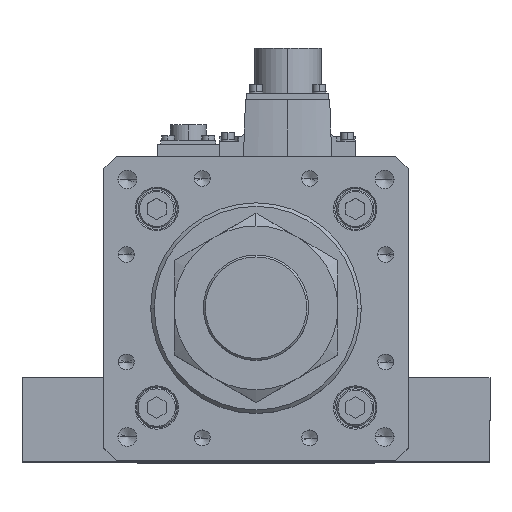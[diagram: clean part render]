
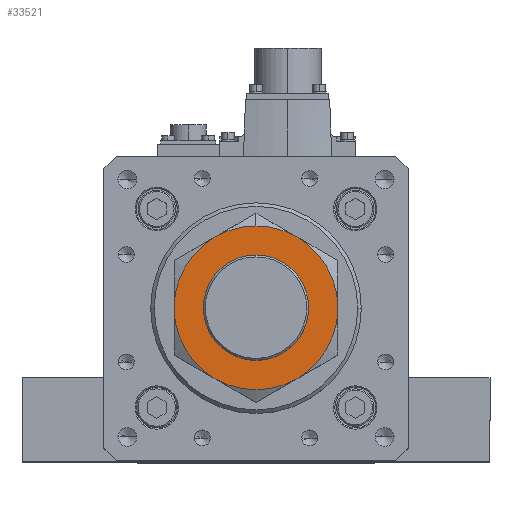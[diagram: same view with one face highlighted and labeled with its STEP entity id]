
A CAD part, top view. The second image highlights one B-rep face of the part: STEP entity #33521.
In plain terms, the highlighted planar face has unit normal (0, 0, 1).
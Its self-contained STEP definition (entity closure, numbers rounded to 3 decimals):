
#99 = CARTESIAN_POINT ( 'NONE',  ( 0., 0., 27. ) ) ;
#620 = DIRECTION ( 'NONE',  ( 0., 1., 0. ) ) ;
#1145 = CIRCLE ( 'NONE', #36834, 35. ) ;
#1588 = EDGE_CURVE ( 'NONE', #39231, #34709, #16601, .T. ) ;
#1895 = CARTESIAN_POINT ( 'NONE',  ( 0., 0., 27. ) ) ;
#2561 = VERTEX_POINT ( 'NONE', #12315 ) ;
#2793 = EDGE_LOOP ( 'NONE', ( #10914, #37246 ) ) ;
#3100 = VERTEX_POINT ( 'NONE', #8699 ) ;
#3575 = CARTESIAN_POINT ( 'NONE',  ( 0., 0., 27. ) ) ;
#3891 = CARTESIAN_POINT ( 'NONE',  ( 0., 0., 27. ) ) ;
#3932 = AXIS2_PLACEMENT_3D ( 'NONE', #99, #6503, #34497 ) ;
#4455 = ORIENTED_EDGE ( 'NONE', *, *, #7414, .F. ) ;
#5912 = DIRECTION ( 'NONE',  ( 0., 0., -1. ) ) ;
#6023 = EDGE_LOOP ( 'NONE', ( #31983, #38843, #33562, #4455, #12282, #38341, #26939 ) ) ;
#6073 = DIRECTION ( 'NONE',  ( 0., 0., 1. ) ) ;
#6374 = DIRECTION ( 'NONE',  ( 1., 0., 0. ) ) ;
#6503 = DIRECTION ( 'NONE',  ( 0., 0., -1. ) ) ;
#6745 = AXIS2_PLACEMENT_3D ( 'NONE', #1895, #7897, #36023 ) ;
#6764 = EDGE_CURVE ( 'NONE', #2561, #23756, #15387, .T. ) ;
#7023 = DIRECTION ( 'NONE',  ( 0., 1., 0. ) ) ;
#7414 = EDGE_CURVE ( 'NONE', #34709, #35839, #1145, .T. ) ;
#7818 = CIRCLE ( 'NONE', #22858, 35. ) ;
#7897 = DIRECTION ( 'NONE',  ( 0., 0., 1. ) ) ;
#8165 = CIRCLE ( 'NONE', #36318, 22.5 ) ;
#8699 = CARTESIAN_POINT ( 'NONE',  ( 35., 0., 27. ) ) ;
#9321 = CARTESIAN_POINT ( 'NONE',  ( 0., 0., 27. ) ) ;
#10197 = CARTESIAN_POINT ( 'NONE',  ( -17.5, 30.311, 27. ) ) ;
#10261 = EDGE_CURVE ( 'NONE', #35839, #38841, #15487, .T. ) ;
#10914 = ORIENTED_EDGE ( 'NONE', *, *, #15480, .F. ) ;
#12282 = ORIENTED_EDGE ( 'NONE', *, *, #1588, .F. ) ;
#12315 = CARTESIAN_POINT ( 'NONE',  ( 22.5, 0., 27. ) ) ;
#13432 = CARTESIAN_POINT ( 'NONE',  ( 0., 35., 27. ) ) ;
#15387 = CIRCLE ( 'NONE', #26648, 22.5 ) ;
#15480 = EDGE_CURVE ( 'NONE', #23756, #2561, #8165, .T. ) ;
#15487 = CIRCLE ( 'NONE', #23361, 35. ) ;
#15513 = DIRECTION ( 'NONE',  ( 1., 0., 0. ) ) ;
#15847 = CARTESIAN_POINT ( 'NONE',  ( 0., 0., 27. ) ) ;
#16071 = CIRCLE ( 'NONE', #22444, 35. ) ;
#16601 = CIRCLE ( 'NONE', #3932, 35. ) ;
#18646 = FACE_OUTER_BOUND ( 'NONE', #6023, .T. ) ;
#18908 = CARTESIAN_POINT ( 'NONE',  ( 0., 0., 27. ) ) ;
#19312 = AXIS2_PLACEMENT_3D ( 'NONE', #21451, #21590, #37371 ) ;
#20779 = PLANE ( 'NONE',  #6745 ) ;
#20991 = CARTESIAN_POINT ( 'NONE',  ( 17.5, 30.311, 27. ) ) ;
#21451 = CARTESIAN_POINT ( 'NONE',  ( 0., 0., 27. ) ) ;
#21590 = DIRECTION ( 'NONE',  ( 0., 0., -1. ) ) ;
#21841 = DIRECTION ( 'NONE',  ( 0., 0., 1. ) ) ;
#22384 = CIRCLE ( 'NONE', #26716, 35. ) ;
#22393 = DIRECTION ( 'NONE',  ( 0., 1., 0. ) ) ;
#22444 = AXIS2_PLACEMENT_3D ( 'NONE', #3575, #34836, #22393 ) ;
#22453 = CARTESIAN_POINT ( 'NONE',  ( -17.5, -30.311, 27. ) ) ;
#22561 = EDGE_CURVE ( 'NONE', #35136, #39231, #26885, .T. ) ;
#22858 = AXIS2_PLACEMENT_3D ( 'NONE', #9321, #5912, #34049 ) ;
#23361 = AXIS2_PLACEMENT_3D ( 'NONE', #3891, #25740, #7023 ) ;
#23497 = EDGE_CURVE ( 'NONE', #36482, #35136, #16071, .T. ) ;
#23756 = VERTEX_POINT ( 'NONE', #39375 ) ;
#25313 = DIRECTION ( 'NONE',  ( 0., 1., 0. ) ) ;
#25470 = CARTESIAN_POINT ( 'NONE',  ( 0., 0., 27. ) ) ;
#25740 = DIRECTION ( 'NONE',  ( 0., 0., -1. ) ) ;
#26648 = AXIS2_PLACEMENT_3D ( 'NONE', #15847, #21841, #6374 ) ;
#26716 = AXIS2_PLACEMENT_3D ( 'NONE', #28195, #31330, #25313 ) ;
#26885 = CIRCLE ( 'NONE', #19312, 35. ) ;
#26939 = ORIENTED_EDGE ( 'NONE', *, *, #23497, .F. ) ;
#28195 = CARTESIAN_POINT ( 'NONE',  ( 0., 0., 27. ) ) ;
#31330 = DIRECTION ( 'NONE',  ( 0., 0., -1. ) ) ;
#31983 = ORIENTED_EDGE ( 'NONE', *, *, #37543, .F. ) ;
#33521 = ADVANCED_FACE ( 'NONE', ( #18646, #34778 ), #20779, .T. ) ;
#33562 = ORIENTED_EDGE ( 'NONE', *, *, #10261, .F. ) ;
#34049 = DIRECTION ( 'NONE',  ( 0., 1., 0. ) ) ;
#34497 = DIRECTION ( 'NONE',  ( 0., 1., 0. ) ) ;
#34709 = VERTEX_POINT ( 'NONE', #10197 ) ;
#34778 = FACE_BOUND ( 'NONE', #2793, .T. ) ;
#34836 = DIRECTION ( 'NONE',  ( 0., 0., -1. ) ) ;
#35136 = VERTEX_POINT ( 'NONE', #22453 ) ;
#35190 = EDGE_CURVE ( 'NONE', #38841, #3100, #22384, .T. ) ;
#35839 = VERTEX_POINT ( 'NONE', #13432 ) ;
#36023 = DIRECTION ( 'NONE',  ( 1., 0., 0. ) ) ;
#36318 = AXIS2_PLACEMENT_3D ( 'NONE', #18908, #6073, #15513 ) ;
#36482 = VERTEX_POINT ( 'NONE', #39848 ) ;
#36834 = AXIS2_PLACEMENT_3D ( 'NONE', #25470, #38411, #620 ) ;
#37246 = ORIENTED_EDGE ( 'NONE', *, *, #6764, .F. ) ;
#37371 = DIRECTION ( 'NONE',  ( 0., 1., 0. ) ) ;
#37543 = EDGE_CURVE ( 'NONE', #3100, #36482, #7818, .T. ) ;
#38341 = ORIENTED_EDGE ( 'NONE', *, *, #22561, .F. ) ;
#38411 = DIRECTION ( 'NONE',  ( 0., 0., -1. ) ) ;
#38841 = VERTEX_POINT ( 'NONE', #20991 ) ;
#38843 = ORIENTED_EDGE ( 'NONE', *, *, #35190, .F. ) ;
#39231 = VERTEX_POINT ( 'NONE', #39604 ) ;
#39375 = CARTESIAN_POINT ( 'NONE',  ( -22.5, 0., 27. ) ) ;
#39604 = CARTESIAN_POINT ( 'NONE',  ( -35., 0., 27. ) ) ;
#39848 = CARTESIAN_POINT ( 'NONE',  ( 17.5, -30.311, 27. ) ) ;
